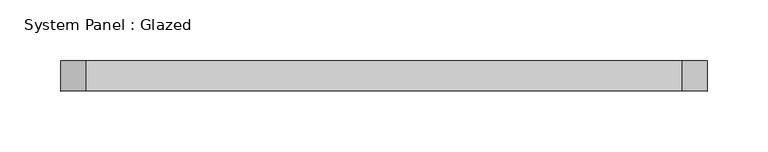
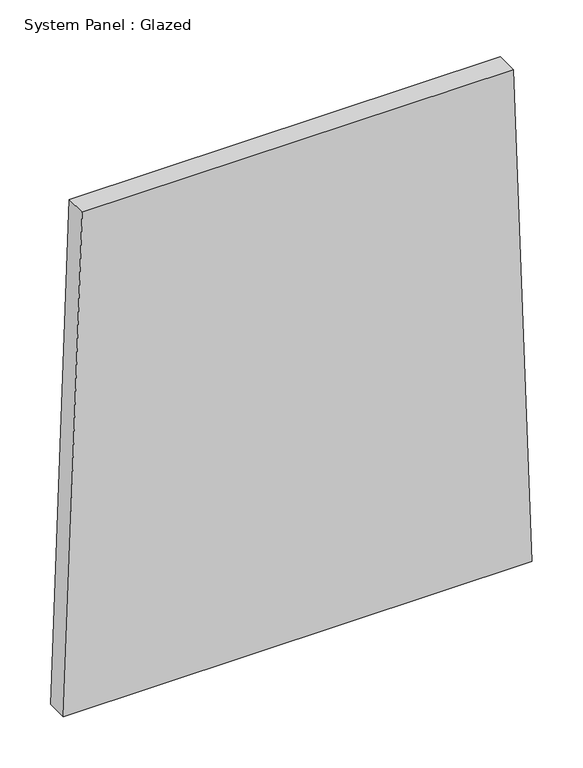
"""IFC4 building model written with IfcOpenShell, lengths in millimetres: plate geometry, System Panel : Glazed."""

from ifc_helpers import new_model, si_unit, frame, origin, place, context, project, spatial, polyline, outline, extrude, source, transform, mapped, element, save


def system_panel_glazed_24286d06(model_context):
    return source(origin(), model_context, "Body", "SweptSolid", [
        extrude(outline(polyline([(0.0, -266.6166085), (0.0, 266.6166085), (599.6257082, 245.4267508), (599.6257082, -245.4267508), (0.0, -266.6166085)])), frame((0.0, 24.5, 0.0), z_axis=(0.0, 1.0, 0.0), x_axis=(0.0, 0.0, 1.0)), (0.0, 0.0, 1.0), 25.0),
    ])


if __name__ == "__main__":
    model = new_model("IFC4")
    model_context = context("Model", 3, world=origin())
    ifc_project = project(units=[si_unit("LENGTHUNIT", "METRE", prefix="MILLI")], contexts=[model_context])
    site = spatial("IfcSite", under=ifc_project)
    building = spatial("IfcBuilding", under=site)
    placement = place(None, origin())
    system_panel_glazed_shape = system_panel_glazed_24286d06(model_context)
    element("IfcPlate", 1, ObjectType="System Panel : Glazed", at=placement, inside=building, context=model_context, shape_type="MappedRepresentation", body=[
        mapped(system_panel_glazed_shape, transform((0.0, 0.0, 0.0), x_axis=(1.0, 0.0, 0.0), y_axis=(0.0, 1.0, 0.0), z_axis=(0.0, 0.0, 1.0))),
    ])
    save(model, "model.ifc")
